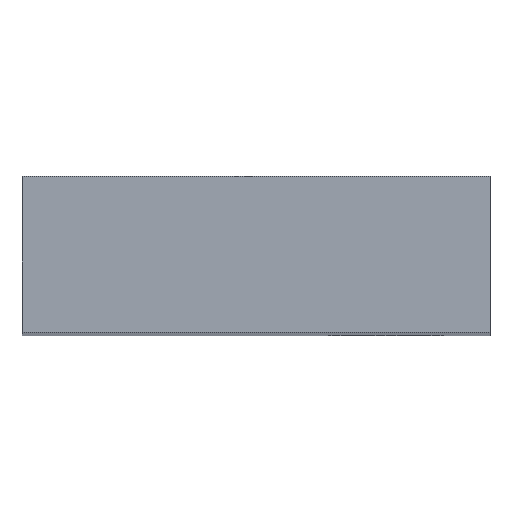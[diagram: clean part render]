
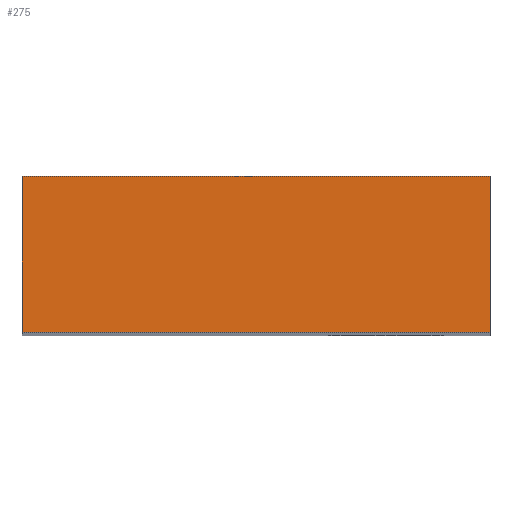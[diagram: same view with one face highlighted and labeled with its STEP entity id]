
A CAD part, top view. The second image highlights one B-rep face of the part: STEP entity #275.
In plain terms, the highlighted planar face has unit normal (0, 0, 1).
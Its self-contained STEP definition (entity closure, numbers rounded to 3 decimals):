
#24 = VERTEX_POINT('',#25);
#25 = CARTESIAN_POINT('',(18.,24.5,137.6));
#32 = PLANE('',#33);
#33 = AXIS2_PLACEMENT_3D('',#34,#35,#36);
#34 = CARTESIAN_POINT('',(18.,24.5,103.6));
#35 = DIRECTION('',(1.,0.,0.));
#36 = DIRECTION('',(0.,0.,1.));
#44 = PLANE('',#45);
#45 = AXIS2_PLACEMENT_3D('',#46,#47,#48);
#46 = CARTESIAN_POINT('',(18.,24.5,103.6));
#47 = DIRECTION('',(0.,1.,0.));
#48 = DIRECTION('',(0.,0.,1.));
#85 = VERTEX_POINT('',#86);
#86 = CARTESIAN_POINT('',(18.,27.5,137.6));
#100 = PLANE('',#101);
#101 = AXIS2_PLACEMENT_3D('',#102,#103,#104);
#102 = CARTESIAN_POINT('',(18.,27.5,103.6));
#103 = DIRECTION('',(0.,1.,0.));
#104 = DIRECTION('',(0.,0.,1.));
#112 = EDGE_CURVE('',#24,#85,#113,.T.);
#113 = SURFACE_CURVE('',#114,(#118,#125),.PCURVE_S1.);
#114 = LINE('',#115,#116);
#115 = CARTESIAN_POINT('',(18.,24.5,137.6));
#116 = VECTOR('',#117,1.);
#117 = DIRECTION('',(0.,1.,0.));
#118 = PCURVE('',#32,#119);
#119 = DEFINITIONAL_REPRESENTATION('',(#120),#124);
#120 = LINE('',#121,#122);
#121 = CARTESIAN_POINT('',(34.,0.));
#122 = VECTOR('',#123,1.);
#123 = DIRECTION('',(0.,-1.));
#124 = ( GEOMETRIC_REPRESENTATION_CONTEXT(2) 
PARAMETRIC_REPRESENTATION_CONTEXT() REPRESENTATION_CONTEXT('2D SPACE',''
  ) );
#125 = PCURVE('',#126,#131);
#126 = PLANE('',#127);
#127 = AXIS2_PLACEMENT_3D('',#128,#129,#130);
#128 = CARTESIAN_POINT('',(18.,24.5,137.6));
#129 = DIRECTION('',(0.,0.,1.));
#130 = DIRECTION('',(1.,0.,0.));
#131 = DEFINITIONAL_REPRESENTATION('',(#132),#136);
#132 = LINE('',#133,#134);
#133 = CARTESIAN_POINT('',(0.,0.));
#134 = VECTOR('',#135,1.);
#135 = DIRECTION('',(0.,1.));
#136 = ( GEOMETRIC_REPRESENTATION_CONTEXT(2) 
PARAMETRIC_REPRESENTATION_CONTEXT() REPRESENTATION_CONTEXT('2D SPACE',''
  ) );
#165 = EDGE_CURVE('',#24,#166,#168,.T.);
#166 = VERTEX_POINT('',#167);
#167 = CARTESIAN_POINT('',(27.,24.5,137.6));
#168 = SURFACE_CURVE('',#169,(#173,#180),.PCURVE_S1.);
#169 = LINE('',#170,#171);
#170 = CARTESIAN_POINT('',(18.,24.5,137.6));
#171 = VECTOR('',#172,1.);
#172 = DIRECTION('',(1.,0.,0.));
#173 = PCURVE('',#44,#174);
#174 = DEFINITIONAL_REPRESENTATION('',(#175),#179);
#175 = LINE('',#176,#177);
#176 = CARTESIAN_POINT('',(34.,0.));
#177 = VECTOR('',#178,1.);
#178 = DIRECTION('',(0.,1.));
#179 = ( GEOMETRIC_REPRESENTATION_CONTEXT(2) 
PARAMETRIC_REPRESENTATION_CONTEXT() REPRESENTATION_CONTEXT('2D SPACE',''
  ) );
#180 = PCURVE('',#126,#181);
#181 = DEFINITIONAL_REPRESENTATION('',(#182),#186);
#182 = LINE('',#183,#184);
#183 = CARTESIAN_POINT('',(0.,0.));
#184 = VECTOR('',#185,1.);
#185 = DIRECTION('',(1.,0.));
#186 = ( GEOMETRIC_REPRESENTATION_CONTEXT(2) 
PARAMETRIC_REPRESENTATION_CONTEXT() REPRESENTATION_CONTEXT('2D SPACE',''
  ) );
#202 = PLANE('',#203);
#203 = AXIS2_PLACEMENT_3D('',#204,#205,#206);
#204 = CARTESIAN_POINT('',(27.,24.5,103.6));
#205 = DIRECTION('',(1.,0.,0.));
#206 = DIRECTION('',(0.,0.,1.));
#275 = ADVANCED_FACE('',(#276),#126,.T.);
#276 = FACE_BOUND('',#277,.T.);
#277 = EDGE_LOOP('',(#278,#279,#280,#303));
#278 = ORIENTED_EDGE('',*,*,#112,.F.);
#279 = ORIENTED_EDGE('',*,*,#165,.T.);
#280 = ORIENTED_EDGE('',*,*,#281,.T.);
#281 = EDGE_CURVE('',#166,#282,#284,.T.);
#282 = VERTEX_POINT('',#283);
#283 = CARTESIAN_POINT('',(27.,27.5,137.6));
#284 = SURFACE_CURVE('',#285,(#289,#296),.PCURVE_S1.);
#285 = LINE('',#286,#287);
#286 = CARTESIAN_POINT('',(27.,24.5,137.6));
#287 = VECTOR('',#288,1.);
#288 = DIRECTION('',(0.,1.,0.));
#289 = PCURVE('',#126,#290);
#290 = DEFINITIONAL_REPRESENTATION('',(#291),#295);
#291 = LINE('',#292,#293);
#292 = CARTESIAN_POINT('',(9.,0.));
#293 = VECTOR('',#294,1.);
#294 = DIRECTION('',(0.,1.));
#295 = ( GEOMETRIC_REPRESENTATION_CONTEXT(2) 
PARAMETRIC_REPRESENTATION_CONTEXT() REPRESENTATION_CONTEXT('2D SPACE',''
  ) );
#296 = PCURVE('',#202,#297);
#297 = DEFINITIONAL_REPRESENTATION('',(#298),#302);
#298 = LINE('',#299,#300);
#299 = CARTESIAN_POINT('',(34.,0.));
#300 = VECTOR('',#301,1.);
#301 = DIRECTION('',(0.,-1.));
#302 = ( GEOMETRIC_REPRESENTATION_CONTEXT(2) 
PARAMETRIC_REPRESENTATION_CONTEXT() REPRESENTATION_CONTEXT('2D SPACE',''
  ) );
#303 = ORIENTED_EDGE('',*,*,#304,.F.);
#304 = EDGE_CURVE('',#85,#282,#305,.T.);
#305 = SURFACE_CURVE('',#306,(#310,#317),.PCURVE_S1.);
#306 = LINE('',#307,#308);
#307 = CARTESIAN_POINT('',(18.,27.5,137.6));
#308 = VECTOR('',#309,1.);
#309 = DIRECTION('',(1.,0.,0.));
#310 = PCURVE('',#126,#311);
#311 = DEFINITIONAL_REPRESENTATION('',(#312),#316);
#312 = LINE('',#313,#314);
#313 = CARTESIAN_POINT('',(0.,3.));
#314 = VECTOR('',#315,1.);
#315 = DIRECTION('',(1.,0.));
#316 = ( GEOMETRIC_REPRESENTATION_CONTEXT(2) 
PARAMETRIC_REPRESENTATION_CONTEXT() REPRESENTATION_CONTEXT('2D SPACE',''
  ) );
#317 = PCURVE('',#100,#318);
#318 = DEFINITIONAL_REPRESENTATION('',(#319),#323);
#319 = LINE('',#320,#321);
#320 = CARTESIAN_POINT('',(34.,0.));
#321 = VECTOR('',#322,1.);
#322 = DIRECTION('',(0.,1.));
#323 = ( GEOMETRIC_REPRESENTATION_CONTEXT(2) 
PARAMETRIC_REPRESENTATION_CONTEXT() REPRESENTATION_CONTEXT('2D SPACE',''
  ) );
